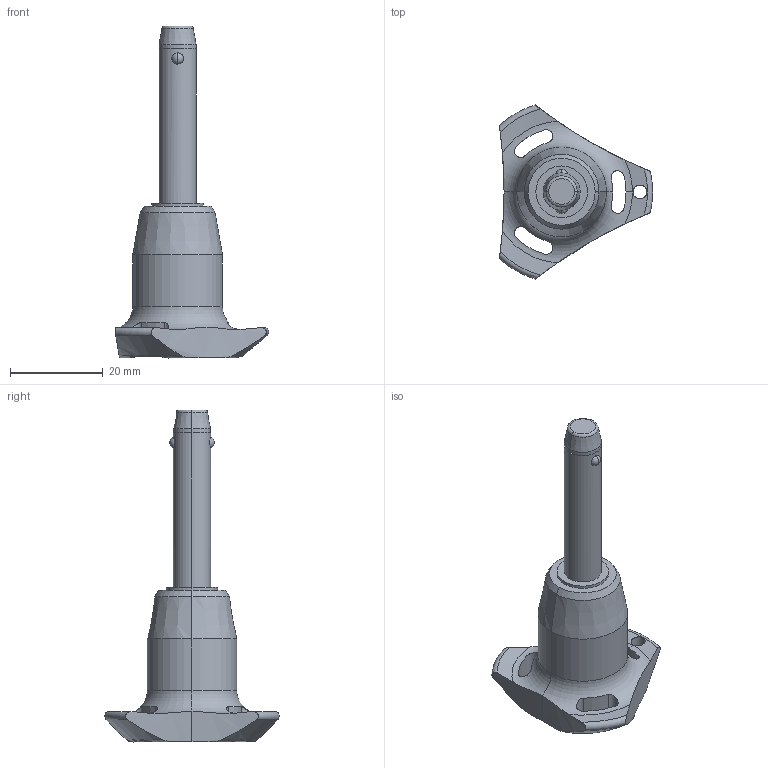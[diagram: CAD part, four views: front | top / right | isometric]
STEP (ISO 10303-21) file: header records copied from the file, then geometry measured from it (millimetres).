
FILE_DESCRIPTION (( 'STEP AP203' ), '1' );
FILE_NAME ('QR1736.M08-030-T.step', '2025-11-13T11:54:18', ( '' ), ( '' ), 'SwSTEP 2.0', 'SolidWorks 2019', '' );
FILE_SCHEMA (( 'CONFIG_CONTROL_DESIGN' ));
Length unit declared in the file: millimetre
Products named in the file (1): QR1736.M08-030-T
Bounding box: 33 x 37.51 x 71.5 mm (x, y, z)
Volume: 12158 mm3; surface area: 4808.7 mm2
Topology: 1 solids, 1 shells, 68 faces, 180 edges, 113 vertices
Faces by surface type: cylinder 32, cone 14, torus 11, sphere 6, plane 5
Entity records: 2826 total; most frequent: CARTESIAN_POINT 1086, ORIENTED_EDGE 360, DIRECTION 347, EDGE_CURVE 180, AXIS2_PLACEMENT_3D 154, VERTEX_POINT 113, CIRCLE 85, EDGE_LOOP 75
